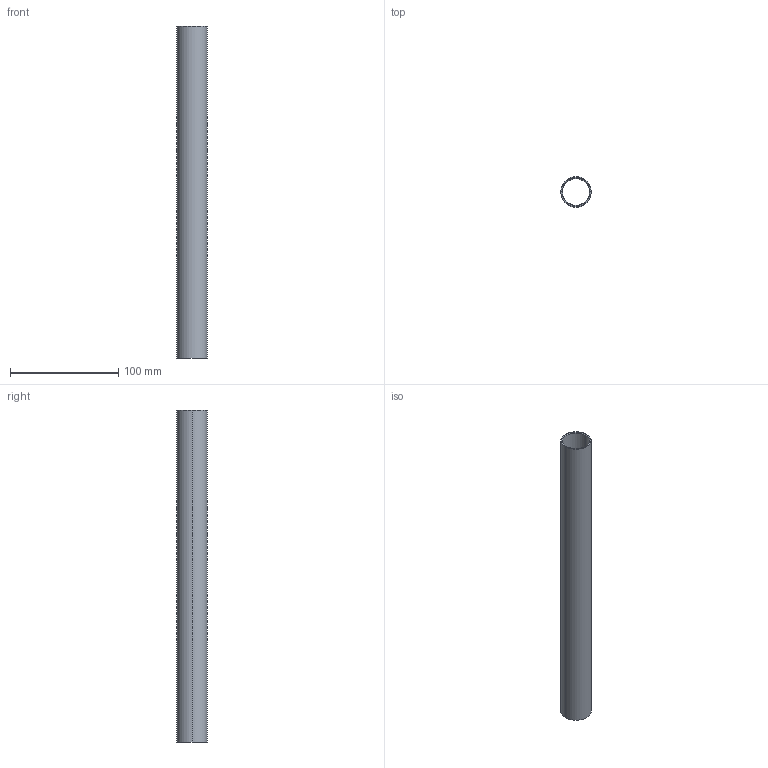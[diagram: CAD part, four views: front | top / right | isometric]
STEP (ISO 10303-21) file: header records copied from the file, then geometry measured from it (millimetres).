
FILE_DESCRIPTION(('FreeCAD Model'),'2;1');
FILE_NAME('Open CASCADE Shape Model','2026-07-02T19:48:22',(''),(''), 'Open CASCADE STEP processor 7.8','FreeCAD','Unknown');
FILE_SCHEMA(('AP242_MANAGED_MODEL_BASED_3D_ENGINEERING_MIM_LF. {1 0 10303 442 1 1 4 }'));
Length unit declared in the file: millimetre
Products named in the file (1): 75T0021
Bounding box: 28 x 28 x 306.5 mm (x, y, z)
Volume: 38255.1 mm3; surface area: 51237.8 mm2
Topology: 1 solids, 1 shells, 10 faces, 20 edges, 12 vertices
Faces by surface type: cylinder 4, cone 4, plane 2
Entity records: 290 total; most frequent: DIRECTION 54, CARTESIAN_POINT 43, ORIENTED_EDGE 40, AXIS2_PLACEMENT_3D 23, EDGE_CURVE 20, FACE_BOUND 12, EDGE_LOOP 12, VERTEX_POINT 12
